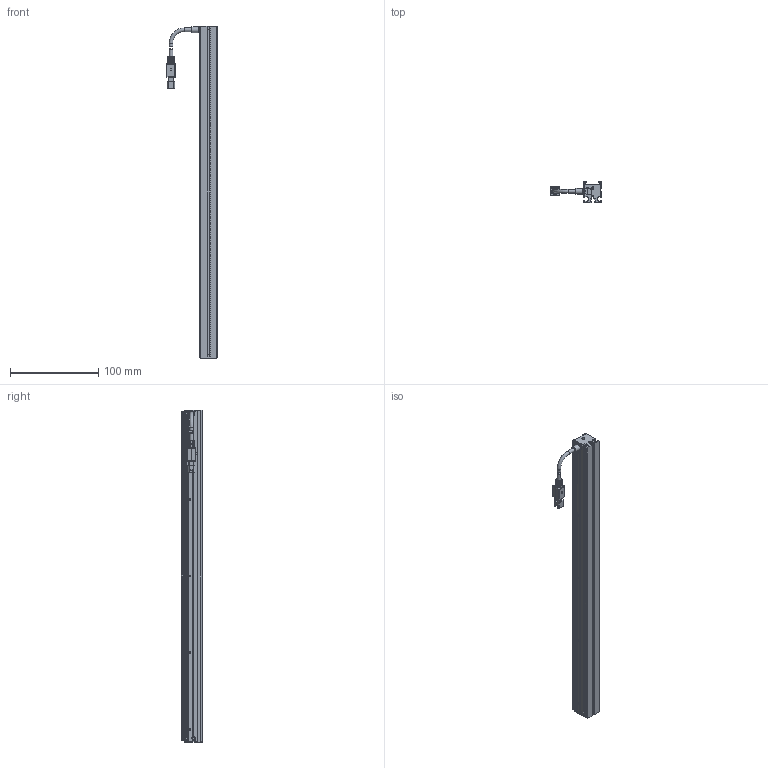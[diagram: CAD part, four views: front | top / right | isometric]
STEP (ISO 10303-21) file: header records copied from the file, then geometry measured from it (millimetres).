
FILE_DESCRIPTION (( 'STEP AP203' ), '1' );
FILE_NAME ('OPT-ULI37620-UV-V1.0尨砩芞.STEP', '2024-12-11T03:09:59', ( '' ), ( '' ), 'SwSTEP 2.0', 'SolidWorks 2016', '' );
FILE_SCHEMA (( 'CONFIG_CONTROL_DESIGN' ));
Length unit declared in the file: millimetre
Products named in the file (1): OPT-ULI37620-UV-V1.0尨砩芞
Bounding box: 57.6 x 24 x 376 mm (x, y, z)
Volume: 132725.3 mm3; surface area: 62469.6 mm2
Topology: 5 solids, 13 shells, 563 faces, 1468 edges, 951 vertices
Faces by surface type: plane 379, cylinder 131, cone 28, bspline 17, torus 8
Full cylindrical faces by diameter (mm): 1.1 x2, 1.4 x2, 1.6 x7, 2 x17, 2.4 x7, 2.5 x2, 3 x2, 4.1 x4, 6.5 x1, 7 x1, 7.5 x1
Entity records: 17243 total; most frequent: CARTESIAN_POINT 4001, ORIENTED_EDGE 2706, DIRECTION 2624, EDGE_CURVE 1353, LINE 916, VECTOR 916, VERTEX_POINT 910, AXIS2_PLACEMENT_3D 854
